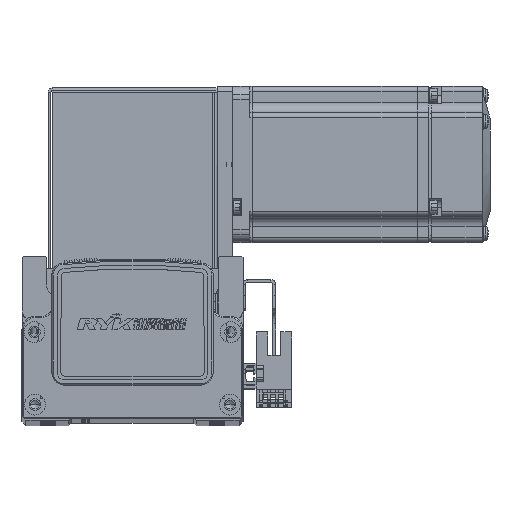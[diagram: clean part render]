
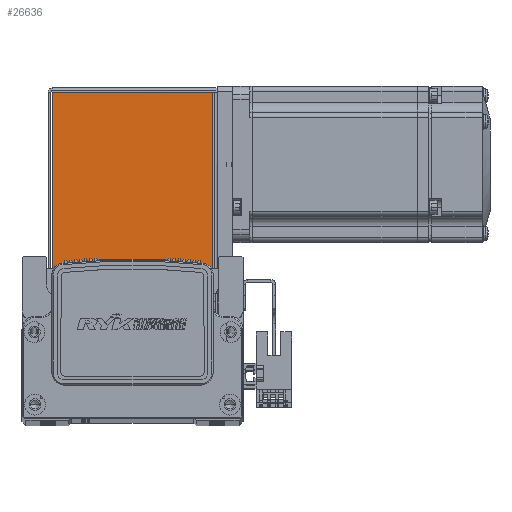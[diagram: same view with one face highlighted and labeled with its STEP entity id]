
A CAD part, top view. The second image highlights one B-rep face of the part: STEP entity #26636.
In plain terms, the highlighted planar face has unit normal (0, 0, 1) as drawn and (0, 0, -1) by its records, which use the part's own axes.
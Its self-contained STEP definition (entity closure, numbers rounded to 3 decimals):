
#4614 = VERTEX_POINT ( 'NONE', #72379 ) ;
#4630 = VERTEX_POINT ( 'NONE', #72404 ) ;
#4694 = VERTEX_POINT ( 'NONE', #72476 ) ;
#4715 = VERTEX_POINT ( 'NONE', #72495 ) ;
#9736 = ORIENTED_EDGE ( 'NONE', *, *, #14471, .T. ) ;
#9850 = ORIENTED_EDGE ( 'NONE', *, *, #14344, .T. ) ;
#9856 = ORIENTED_EDGE ( 'NONE', *, *, #14386, .F. ) ;
#9858 = ORIENTED_EDGE ( 'NONE', *, *, #14328, .T. ) ;
#14328 = EDGE_CURVE ( 'NONE', #4630, #4614, #69903, .T. ) ;
#14344 = EDGE_CURVE ( 'NONE', #4694, #4630, #69926, .T. ) ;
#14386 = EDGE_CURVE ( 'NONE', #4715, #4614, #69933, .T. ) ;
#14471 = EDGE_CURVE ( 'NONE', #4715, #4694, #70084, .T. ) ;
#26636 = ADVANCED_FACE ( 'NONE', ( #36844 ), #80296, .F. ) ;
#28434 = EDGE_LOOP ( 'NONE', ( #9858, #9856, #9736, #9850 ) ) ;
#31810 = AXIS2_PLACEMENT_3D ( 'NONE', #80256, #80275, #80266 ) ;
#36844 = FACE_OUTER_BOUND ( 'NONE', #28434, .T. ) ;
#69857 = VECTOR ( 'NONE', #73942, 1000. ) ;
#69872 = VECTOR ( 'NONE', #73924, 1000. ) ;
#69903 = LINE ( 'NONE', #73922, #69872 ) ;
#69926 = LINE ( 'NONE', #73926, #69857 ) ;
#69933 = LINE ( 'NONE', #73954, #69950 ) ;
#69950 = VECTOR ( 'NONE', #73970, 1000. ) ;
#70009 = VECTOR ( 'NONE', #74055, 1000. ) ;
#70084 = LINE ( 'NONE', #74017, #70009 ) ;
#72379 = CARTESIAN_POINT ( 'NONE',  ( 30.763, 0.737, -35. ) ) ;
#72404 = CARTESIAN_POINT ( 'NONE',  ( 30.763, 68.5, -35. ) ) ;
#72476 = CARTESIAN_POINT ( 'NONE',  ( -30.793, 68.5, -35. ) ) ;
#72495 = CARTESIAN_POINT ( 'NONE',  ( -30.793, 0.737, -35. ) ) ;
#73922 = CARTESIAN_POINT ( 'NONE',  ( 30.763, 68.5, -35. ) ) ;
#73924 = DIRECTION ( 'NONE',  ( 0., -1., 0. ) ) ;
#73926 = CARTESIAN_POINT ( 'NONE',  ( 0., 68.5, -35. ) ) ;
#73942 = DIRECTION ( 'NONE',  ( 1., 0., 0. ) ) ;
#73954 = CARTESIAN_POINT ( 'NONE',  ( 32.5, 0.737, -35. ) ) ;
#73970 = DIRECTION ( 'NONE',  ( 1., 0., 0. ) ) ;
#74017 = CARTESIAN_POINT ( 'NONE',  ( -30.793, 0., -35. ) ) ;
#74055 = DIRECTION ( 'NONE',  ( 0., 1., 0. ) ) ;
#80256 = CARTESIAN_POINT ( 'NONE',  ( 0., 0., -35. ) ) ;
#80266 = DIRECTION ( 'NONE',  ( 0., -1., 0. ) ) ;
#80275 = DIRECTION ( 'NONE',  ( 0., 0., 1. ) ) ;
#80296 = PLANE ( 'NONE',  #31810 ) ;
